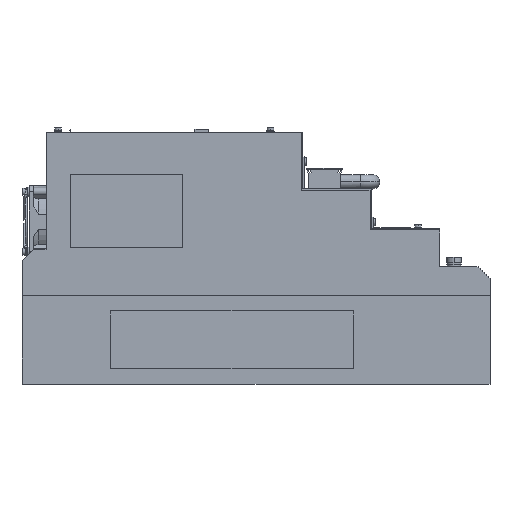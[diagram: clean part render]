
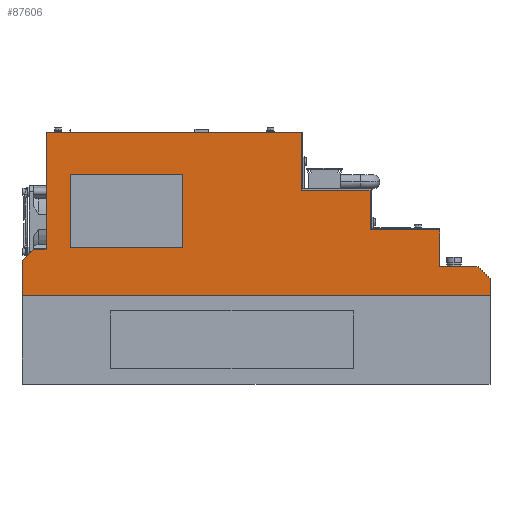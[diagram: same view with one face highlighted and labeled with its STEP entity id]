
A CAD part, left-side view. The second image highlights one B-rep face of the part: STEP entity #87606.
In plain terms, the highlighted planar face has unit normal (-1, 0, 0).
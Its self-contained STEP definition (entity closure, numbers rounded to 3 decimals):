
#43525 = CARTESIAN_POINT ( 'NONE',  ( -30., -340.5, 98. ) ) ;
#43527 = DIRECTION ( 'NONE',  ( 0., 0., -1. ) ) ;
#43529 = VECTOR ( 'NONE', #43527, 1000. ) ;
#43531 = CARTESIAN_POINT ( 'NONE',  ( -30., -340.5, 612.55 ) ) ;
#43532 = LINE ( 'NONE', #43531, #43529 ) ;
#43538 = CARTESIAN_POINT ( 'NONE',  ( -30., -340.5, 128.5 ) ) ;
#52552 = CARTESIAN_POINT ( 'NONE',  ( -30., -12.5, 210. ) ) ;
#53853 = CARTESIAN_POINT ( 'NONE',  ( -30., -225.3, 210. ) ) ;
#53892 = DIRECTION ( 'NONE',  ( 0., -1., 0. ) ) ;
#53893 = VECTOR ( 'NONE', #53892, 1000. ) ;
#53895 = CARTESIAN_POINT ( 'NONE',  ( -30., -12.5, 210. ) ) ;
#53896 = LINE ( 'NONE', #53895, #53893 ) ;
#57099 = DIRECTION ( 'NONE',  ( 0., 0., -1. ) ) ;
#57100 = VECTOR ( 'NONE', #57099, 1000. ) ;
#57102 = CARTESIAN_POINT ( 'NONE',  ( -30., -32.5, 114. ) ) ;
#57104 = LINE ( 'NONE', #57102, #57100 ) ;
#57118 = CARTESIAN_POINT ( 'NONE',  ( -30., -32.5, 114. ) ) ;
#57120 = DIRECTION ( 'NONE',  ( 0., 1., 0. ) ) ;
#57121 = VECTOR ( 'NONE', #57120, 1000. ) ;
#57123 = CARTESIAN_POINT ( 'NONE',  ( -30., -32.5, 175. ) ) ;
#57125 = LINE ( 'NONE', #57123, #57121 ) ;
#57130 = DIRECTION ( 'NONE',  ( 0., -1., 0. ) ) ;
#57131 = VECTOR ( 'NONE', #57130, 1000. ) ;
#57133 = CARTESIAN_POINT ( 'NONE',  ( -30., -32.5, 114. ) ) ;
#57135 = LINE ( 'NONE', #57133, #57131 ) ;
#57140 = CARTESIAN_POINT ( 'NONE',  ( -30., -32.5, 175. ) ) ;
#57278 = CARTESIAN_POINT ( 'NONE',  ( -30., -126.5, 114. ) ) ;
#57281 = CARTESIAN_POINT ( 'NONE',  ( -30., -126.5, 175. ) ) ;
#57283 = DIRECTION ( 'NONE',  ( 0., 0., 1. ) ) ;
#57284 = VECTOR ( 'NONE', #57283, 1000. ) ;
#57285 = CARTESIAN_POINT ( 'NONE',  ( -30., -126.5, 114. ) ) ;
#57287 = LINE ( 'NONE', #57285, #57284 ) ;
#57418 = CARTESIAN_POINT ( 'NONE',  ( -30., -12.5, 112.5 ) ) ;
#57432 = DIRECTION ( 'NONE',  ( 0., 1., 0. ) ) ;
#57434 = DIRECTION ( 'NONE',  ( 1., 0., 0. ) ) ;
#57436 = CARTESIAN_POINT ( 'NONE',  ( -30., -12.5, 612.55 ) ) ;
#57437 = AXIS2_PLACEMENT_3D ( 'NONE', #57436, #57434, #57432 ) ;
#57439 = PLANE ( 'NONE',  #57437 ) ;
#57443 = FACE_OUTER_BOUND ( 'NONE', #87521, .T. ) ;
#57444 = FACE_BOUND ( 'NONE', #87610, .T. ) ;
#57446 = DIRECTION ( 'NONE',  ( 0., 0., -1. ) ) ;
#57448 = VECTOR ( 'NONE', #57446, 1000. ) ;
#57450 = CARTESIAN_POINT ( 'NONE',  ( -30., -12.5, 612.55 ) ) ;
#57451 = LINE ( 'NONE', #57450, #57448 ) ;
#57495 = DIRECTION ( 'NONE',  ( 0., 0., 1. ) ) ;
#57496 = VECTOR ( 'NONE', #57495, 1000. ) ;
#57497 = CARTESIAN_POINT ( 'NONE',  ( -30., -225.3, 161.5 ) ) ;
#57500 = LINE ( 'NONE', #57497, #57496 ) ;
#57534 = DIRECTION ( 'NONE',  ( 0., 1., 0. ) ) ;
#57535 = VECTOR ( 'NONE', #57534, 1000. ) ;
#57537 = CARTESIAN_POINT ( 'NONE',  ( -30., -282.5, 161.5 ) ) ;
#57538 = LINE ( 'NONE', #57537, #57535 ) ;
#57544 = CARTESIAN_POINT ( 'NONE',  ( -30., -282.5, 161.5 ) ) ;
#57563 = DIRECTION ( 'NONE',  ( 0., 0., 1. ) ) ;
#57564 = VECTOR ( 'NONE', #57563, 1000. ) ;
#57565 = CARTESIAN_POINT ( 'NONE',  ( -30., -282.5, 128.5 ) ) ;
#57567 = LINE ( 'NONE', #57565, #57564 ) ;
#57670 = CARTESIAN_POINT ( 'NONE',  ( -30., -225.3, 161.5 ) ) ;
#57713 = CARTESIAN_POINT ( 'NONE',  ( -30., -282.5, 128.5 ) ) ;
#57799 = DIRECTION ( 'NONE',  ( 0., 1., 0. ) ) ;
#57800 = VECTOR ( 'NONE', #57799, 1000. ) ;
#57803 = CARTESIAN_POINT ( 'NONE',  ( -30., -340.5, 128.5 ) ) ;
#57804 = LINE ( 'NONE', #57803, #57800 ) ;
#57915 = CARTESIAN_POINT ( 'NONE',  ( -30., -382.5, 74. ) ) ;
#57935 = DIRECTION ( 'NONE',  ( 0., -0.707, 0.707 ) ) ;
#57937 = VECTOR ( 'NONE', #57935, 1000. ) ;
#57938 = CARTESIAN_POINT ( 'NONE',  ( -30., 7.5, 102.5 ) ) ;
#57940 = LINE ( 'NONE', #57938, #57937 ) ;
#57943 = DIRECTION ( 'NONE',  ( 0., -1., 0. ) ) ;
#57945 = VECTOR ( 'NONE', #57943, 1000. ) ;
#57946 = CARTESIAN_POINT ( 'NONE',  ( -30., -382.5, 74. ) ) ;
#57948 = LINE ( 'NONE', #57946, #57945 ) ;
#57967 = CARTESIAN_POINT ( 'NONE',  ( -30., 7.5, 74. ) ) ;
#58006 = DIRECTION ( 'NONE',  ( 0., -1., 0. ) ) ;
#58008 = VECTOR ( 'NONE', #58006, 1000. ) ;
#58009 = CARTESIAN_POINT ( 'NONE',  ( -30., -12.5, 112.5 ) ) ;
#58010 = LINE ( 'NONE', #58009, #58008 ) ;
#58016 = CARTESIAN_POINT ( 'NONE',  ( -30., -2.5, 112.5 ) ) ;
#58058 = CARTESIAN_POINT ( 'NONE',  ( -30., 7.5, 102.5 ) ) ;
#58062 = DIRECTION ( 'NONE',  ( 0., 0., 1. ) ) ;
#58063 = VECTOR ( 'NONE', #58062, 1000. ) ;
#58064 = CARTESIAN_POINT ( 'NONE',  ( -30., 7.5, -394.722 ) ) ;
#58066 = LINE ( 'NONE', #58064, #58063 ) ;
#60191 = LINE ( 'NONE', #60346, #60345 ) ;
#60193 = CARTESIAN_POINT ( 'NONE',  ( -30., -372.5, 98. ) ) ;
#60195 = DIRECTION ( 'NONE',  ( 0., -0.707, -0.707 ) ) ;
#60197 = VECTOR ( 'NONE', #60195, 1000. ) ;
#60199 = CARTESIAN_POINT ( 'NONE',  ( -30., -382.5, 88. ) ) ;
#60200 = LINE ( 'NONE', #60199, #60197 ) ;
#60343 = DIRECTION ( 'NONE',  ( 0., -1., 0. ) ) ;
#60345 = VECTOR ( 'NONE', #60343, 1000. ) ;
#60346 = CARTESIAN_POINT ( 'NONE',  ( -30., -340.5, 98. ) ) ;
#63134 = CARTESIAN_POINT ( 'NONE',  ( -30., -382.5, 88. ) ) ;
#63264 = VERTEX_POINT ( 'NONE', #43538 ) ;
#63266 = EDGE_CURVE ( 'NONE', #63264, #63267, #43532, .T. ) ;
#63267 = VERTEX_POINT ( 'NONE', #43525 ) ;
#64443 = DIRECTION ( 'NONE',  ( 0., 0., 1. ) ) ;
#64445 = VECTOR ( 'NONE', #64443, 1000. ) ;
#64446 = CARTESIAN_POINT ( 'NONE',  ( -30., -382.5, -394.722 ) ) ;
#64448 = LINE ( 'NONE', #64446, #64445 ) ;
#78142 = VERTEX_POINT ( 'NONE', #52552 ) ;
#81427 = VERTEX_POINT ( 'NONE', #53853 ) ;
#81945 = EDGE_CURVE ( 'NONE', #78142, #81427, #53896, .T. ) ;
#87514 = VERTEX_POINT ( 'NONE', #57140 ) ;
#87515 = ORIENTED_EDGE ( 'NONE', *, *, #87517, .F. ) ;
#87516 = EDGE_CURVE ( 'NONE', #87518, #87572, #57135, .T. ) ;
#87517 = EDGE_CURVE ( 'NONE', #87570, #87514, #57125, .T. ) ;
#87518 = VERTEX_POINT ( 'NONE', #57118 ) ;
#87519 = ORIENTED_EDGE ( 'NONE', *, *, #87529, .F. ) ;
#87521 = EDGE_LOOP ( 'NONE', ( #87744, #87702, #87667, #87646, #87615, #87622, #88345, #87769, #87789, #87756, #87753, #89100, #88382, #88326 ) ) ;
#87529 = EDGE_CURVE ( 'NONE', #87514, #87518, #57104, .T. ) ;
#87545 = ORIENTED_EDGE ( 'NONE', *, *, #87516, .F. ) ;
#87569 = EDGE_CURVE ( 'NONE', #87572, #87570, #57287, .T. ) ;
#87570 = VERTEX_POINT ( 'NONE', #57281 ) ;
#87572 = VERTEX_POINT ( 'NONE', #57278 ) ;
#87595 = ORIENTED_EDGE ( 'NONE', *, *, #87569, .F. ) ;
#87605 = EDGE_CURVE ( 'NONE', #78142, #87609, #57451, .T. ) ;
#87606 = ADVANCED_FACE ( 'NONE', ( #57444, #57443 ), #57439, .F. ) ;
#87609 = VERTEX_POINT ( 'NONE', #57418 ) ;
#87610 = EDGE_LOOP ( 'NONE', ( #87595, #87545, #87519, #87515 ) ) ;
#87615 = ORIENTED_EDGE ( 'NONE', *, *, #81945, .F. ) ;
#87622 = ORIENTED_EDGE ( 'NONE', *, *, #87605, .T. ) ;
#87631 = EDGE_CURVE ( 'NONE', #87671, #81427, #57500, .T. ) ;
#87646 = ORIENTED_EDGE ( 'NONE', *, *, #87631, .T. ) ;
#87655 = EDGE_CURVE ( 'NONE', #87711, #87663, #57567, .T. ) ;
#87663 = VERTEX_POINT ( 'NONE', #57544 ) ;
#87664 = EDGE_CURVE ( 'NONE', #87663, #87671, #57538, .T. ) ;
#87667 = ORIENTED_EDGE ( 'NONE', *, *, #87664, .T. ) ;
#87671 = VERTEX_POINT ( 'NONE', #57670 ) ;
#87702 = ORIENTED_EDGE ( 'NONE', *, *, #87655, .T. ) ;
#87711 = VERTEX_POINT ( 'NONE', #57713 ) ;
#87731 = EDGE_CURVE ( 'NONE', #63264, #87711, #57804, .T. ) ;
#87742 = VERTEX_POINT ( 'NONE', #57915 ) ;
#87744 = ORIENTED_EDGE ( 'NONE', *, *, #87731, .T. ) ;
#87753 = ORIENTED_EDGE ( 'NONE', *, *, #89406, .T. ) ;
#87756 = ORIENTED_EDGE ( 'NONE', *, *, #87776, .T. ) ;
#87769 = ORIENTED_EDGE ( 'NONE', *, *, #87777, .F. ) ;
#87771 = VERTEX_POINT ( 'NONE', #57967 ) ;
#87776 = EDGE_CURVE ( 'NONE', #87771, #87742, #57948, .T. ) ;
#87777 = EDGE_CURVE ( 'NONE', #87784, #87797, #57940, .T. ) ;
#87782 = EDGE_CURVE ( 'NONE', #87771, #87784, #58066, .T. ) ;
#87784 = VERTEX_POINT ( 'NONE', #58058 ) ;
#87789 = ORIENTED_EDGE ( 'NONE', *, *, #87782, .F. ) ;
#87797 = VERTEX_POINT ( 'NONE', #58016 ) ;
#87799 = EDGE_CURVE ( 'NONE', #87797, #87609, #58010, .T. ) ;
#88326 = ORIENTED_EDGE ( 'NONE', *, *, #63266, .F. ) ;
#88345 = ORIENTED_EDGE ( 'NONE', *, *, #87799, .F. ) ;
#88380 = EDGE_CURVE ( 'NONE', #88381, #89098, #60200, .T. ) ;
#88381 = VERTEX_POINT ( 'NONE', #60193 ) ;
#88382 = ORIENTED_EDGE ( 'NONE', *, *, #88383, .F. ) ;
#88383 = EDGE_CURVE ( 'NONE', #63267, #88381, #60191, .T. ) ;
#89098 = VERTEX_POINT ( 'NONE', #63134 ) ;
#89100 = ORIENTED_EDGE ( 'NONE', *, *, #88380, .F. ) ;
#89406 = EDGE_CURVE ( 'NONE', #87742, #89098, #64448, .T. ) ;
